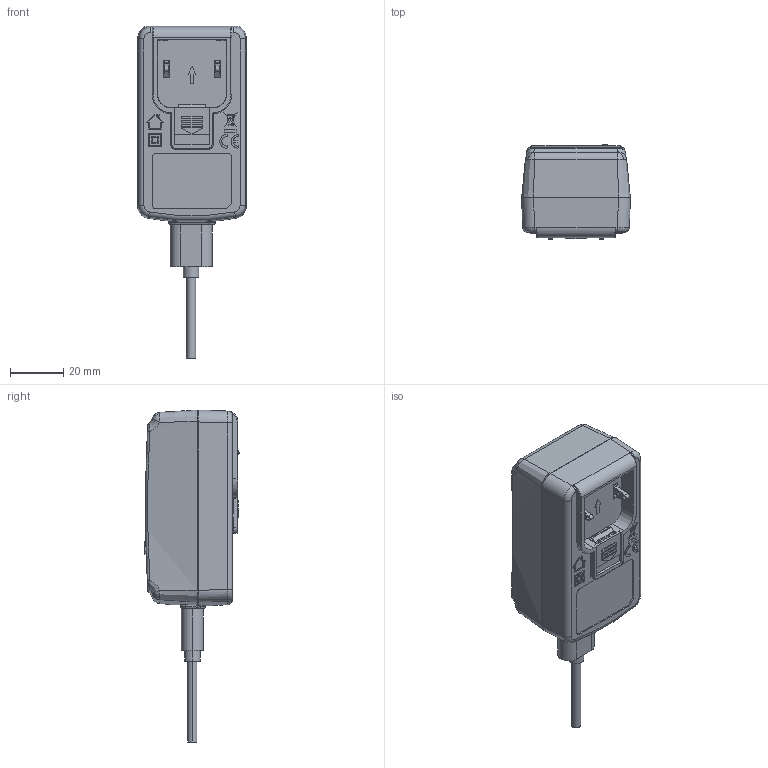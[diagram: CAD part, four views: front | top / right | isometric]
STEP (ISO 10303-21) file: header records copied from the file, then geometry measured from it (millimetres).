
FILE_DESCRIPTION((''),'2;1');
FILE_NAME('GTM46161-16VV-USB1A_ASM','2022-01-18T16:33:33',('rd05'),(''),'CREO PARAMETRIC BY PTC INC, 2018050','CREO PARAMETRIC BY PTC INC, 2018050','');
FILE_SCHEMA(('CONFIG_CONTROL_DESIGN','GEOMETRIC_VALIDATION_PROPERTIES_MIM'));
Products named in the file (27): MANIFOLD_SOLID_BREP_3919_2; NEW-PIN-RIGHT_2; NEW-PIN-LEFT_2; SPRING_1; COVER_2; PCB_N_8; USB-1_7; 501Z_1; 470UF_1; CY1_1; XF01036_1; LED_1; 1549M_1; 1648S_1; BIANYAQI_1; RF1_1; T1A_1; LF500_1_1; LF500_1_2; LF500_1_ASM; PCB-1_ASM_4_ASM; USB_7; USB-1-BOTTOM-CASE_2; TOP-CASE-USB-1_3; LENS_1; USB-1_ASM_22_ASM; GTM46161-16VV-USB1A_ASM
Assembly tree (29 placements, depth 5):
  GTM46161-16VV-USB1A_ASM
    USB-1_ASM_22_ASM
      MANIFOLD_SOLID_BREP_3919_2  x2
      NEW-PIN-RIGHT_2
      NEW-PIN-LEFT_2
      SPRING_1
      COVER_2
      PCB-1_ASM_4_ASM
        PCB_N_8
        USB-1_7
        501Z_1
        470UF_1
        CY1_1  x2
        XF01036_1
        LED_1
        1549M_1
        1648S_1  x2
        BIANYAQI_1
        RF1_1
        T1A_1
        LF500_1_ASM
          LF500_1_1
          LF500_1_2
      USB_7
      USB-1-BOTTOM-CASE_2
      TOP-CASE-USB-1_3
      LENS_1
Bounding box: 41 x 35.54 x 125.2 mm (x, y, z)
Volume: 43639.3 mm3; surface area: 50651.2 mm2
Topology: 26 solids, 29 shells, 2367 faces, 6217 edges, 3941 vertices
Faces by surface type: plane 1184, cylinder 633, torus 277, cone 163, bspline 93, extrusion 11, sphere 6
Entity records: 90169 total; most frequent: CARTESIAN_POINT 26034, ORIENTED_EDGE 11768, DIRECTION 11723, EDGE_CURVE 5900, AXIS2_PLACEMENT_3D 4150, VERTEX_POINT 3734, VECTOR 3423, LINE 3412
